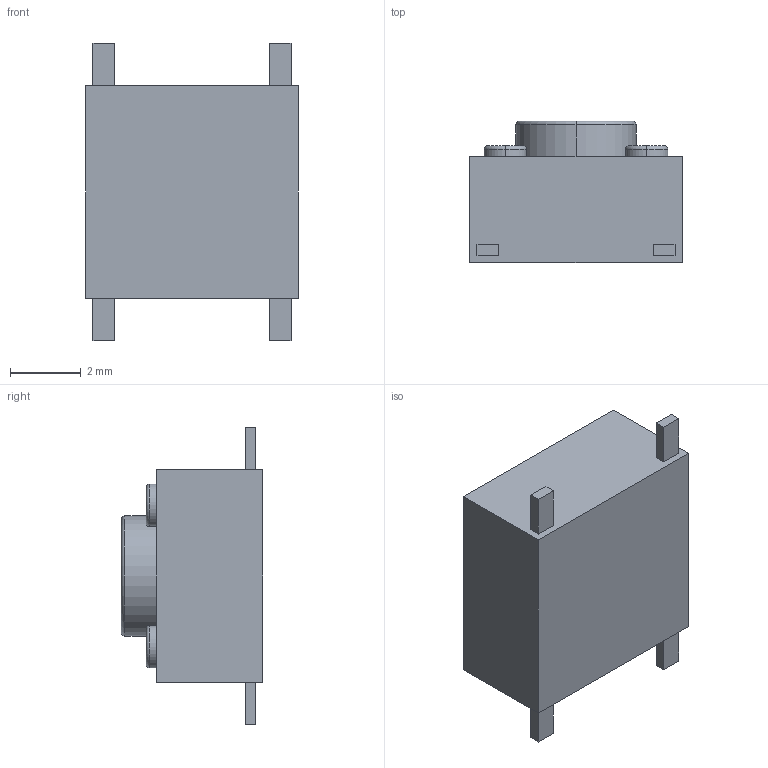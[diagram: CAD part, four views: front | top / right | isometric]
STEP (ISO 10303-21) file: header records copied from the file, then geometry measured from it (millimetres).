
FILE_DESCRIPTION (( 'STEP AP203' ), '1' );
FILE_NAME ('Micro_Button_6x6.STEP', '2025-07-20T07:55:44', ( '' ), ( '' ), 'SwSTEP 2.0', 'SolidWorks 2024', '' );
FILE_SCHEMA (( 'CONFIG_CONTROL_DESIGN' ));
Length unit declared in the file: millimetre
Products named in the file (1): Micro_Button_6x6
Bounding box: 6 x 4 x 8.4 mm (x, y, z)
Volume: 119.2 mm3; surface area: 166.7 mm2
Topology: 1 solids, 1 shells, 51 faces, 110 edges, 70 vertices
Faces by surface type: plane 31, torus 10, cylinder 10
Entity records: 1461 total; most frequent: DIRECTION 254, CARTESIAN_POINT 232, ORIENTED_EDGE 220, EDGE_CURVE 110, AXIS2_PLACEMENT_3D 92, VERTEX_POINT 70, VECTOR 70, LINE 70
